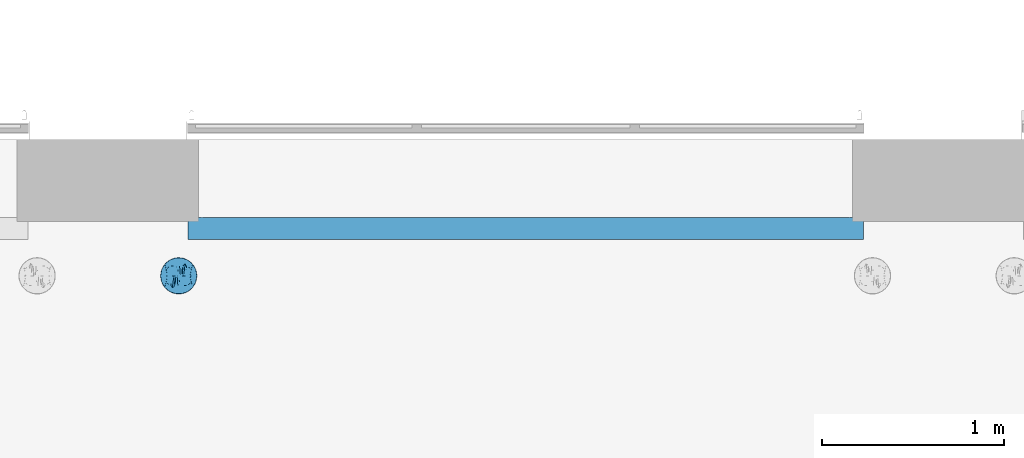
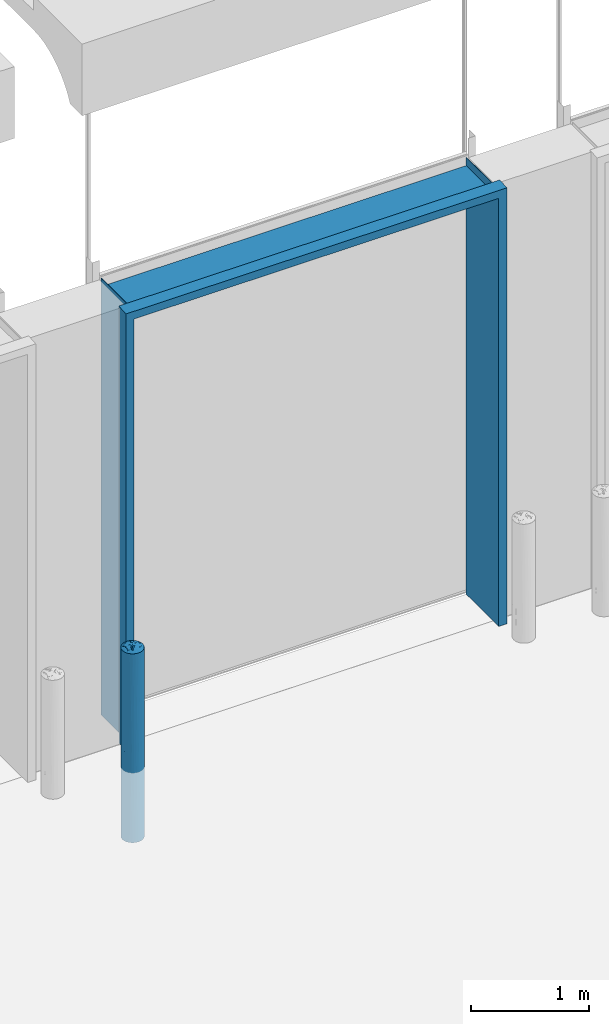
# One storey, part 44 of 77: 2 discrete accessories.
"""IFC2X3 building model written with IfcOpenShell, lengths in millimetres."""

from ifc_helpers import new_model, entity, si_unit, converted_unit, derived_unit, direction, frame, origin, place, context, subcontext, project, spatial, faceted_brep, source, transform, mapped, material, type_object, type_shapes, element, save


model = new_model("IFC2X3")

# Units and contexts
model_context = context("Model", 3, precision=0.01, world=origin(), true_north=direction((6.12303176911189e-17, 1.0)))
body_context = subcontext(model_context, "Body", "Model", "MODEL_VIEW")
ifc_project = project(units=[si_unit("LENGTHUNIT", "METRE", prefix="MILLI"), si_unit("AREAUNIT", "SQUARE_METRE"), si_unit("VOLUMEUNIT", "CUBIC_METRE"), converted_unit("PLANEANGLEUNIT", "DEGREE", entity("IfcRatioMeasure", 0.0174532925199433), si_unit("PLANEANGLEUNIT", "RADIAN"), dimensions=[0, 0, 0, 0, 0, 0, 0]), si_unit("MASSUNIT", "GRAM", prefix="KILO"), derived_unit("MASSDENSITYUNIT", [(si_unit("MASSUNIT", "GRAM", prefix="KILO"), 1), (si_unit("LENGTHUNIT", "METRE"), -3)]), si_unit("TIMEUNIT", "SECOND"), si_unit("FREQUENCYUNIT", "HERTZ"), si_unit("THERMODYNAMICTEMPERATUREUNIT", "DEGREE_CELSIUS"), derived_unit("THERMALTRANSMITTANCEUNIT", [(si_unit("MASSUNIT", "GRAM", prefix="KILO"), 1), (si_unit("THERMODYNAMICTEMPERATUREUNIT", "KELVIN"), -1), (si_unit("TIMEUNIT", "SECOND"), -3)]), derived_unit("VOLUMETRICFLOWRATEUNIT", [(si_unit("LENGTHUNIT", "METRE"), 3), (si_unit("TIMEUNIT", "SECOND"), -1)]), si_unit("ELECTRICCURRENTUNIT", "AMPERE"), si_unit("ELECTRICVOLTAGEUNIT", "VOLT"), si_unit("POWERUNIT", "WATT"), si_unit("FORCEUNIT", "NEWTON", prefix="KILO"), si_unit("ILLUMINANCEUNIT", "LUX"), si_unit("LUMINOUSFLUXUNIT", "LUMEN"), si_unit("LUMINOUSINTENSITYUNIT", "CANDELA"), derived_unit("USERDEFINED", [(si_unit("MASSUNIT", "GRAM", prefix="KILO"), -1), (si_unit("LENGTHUNIT", "METRE"), -2), (si_unit("TIMEUNIT", "SECOND"), 3), (si_unit("LUMINOUSFLUXUNIT", "LUMEN"), 1)]), derived_unit("LINEARVELOCITYUNIT", [(si_unit("LENGTHUNIT", "METRE"), 1), (si_unit("TIMEUNIT", "SECOND"), -1)]), si_unit("PRESSUREUNIT", "PASCAL"), derived_unit("USERDEFINED", [(si_unit("LENGTHUNIT", "METRE"), -2), (si_unit("MASSUNIT", "GRAM", prefix="KILO"), 1), (si_unit("TIMEUNIT", "SECOND"), -2)])], contexts=[model_context])

# Site, building, storey
site_placement = place(None, origin())
site = spatial("IfcSite", under=ifc_project, at=site_placement, Name="Default", CompositionType="ELEMENT")
building_placement = place(site_placement, origin())
building = spatial("IfcBuilding", under=site, at=building_placement, CompositionType="ELEMENT")
storey_placement = place(building_placement, origin())
storey = spatial("IfcBuildingStorey", under=building, at=storey_placement, Name="1. KORRUS", CompositionType="ELEMENT", Elevation=0.0)

# Discrete accessories
ifc_material = material(Name="Default New Material-must-varv")
discrete_accessory_type_1 = type_object("IfcDiscreteAccessoryType", Name="ukse-pollar", material=ifc_material)
shared_shape_1 = source(origin(), body_context, "Body", "Brep", [
    faceted_brep([(83.7498316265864, 0.0, 1211.3118064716), (91.8749158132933, 0.0, 1205.6559032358), (100.0, 0.0, 1200.0), (97.6882221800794, 13.1107435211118, 1200.0), (95.8287421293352, 23.6563789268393, 1200.0), (93.969262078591, 34.2020143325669, 1200.0), (76.9390417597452, 0.0, 1216.05282423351), (63.3022221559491, 75.4406506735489, 1200.0), (62.8416939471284, 39.8030161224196, 1218.4526620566), (69.2436158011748, 37.0764107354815, 1215.9880775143), (-97.6882221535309, 13.110743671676, 1200.0), (-100.0, 0.0, 1200.0), (-91.8749158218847, 0.0, 1205.65590322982), (-83.7498316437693, 0.0, 1211.31180645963), (-76.9390417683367, 0.0, 1216.05282422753), (-93.9692620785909, 34.2020143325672, 1200.0), (-95.8287421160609, 23.6563790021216, 1200.0), (61.6281008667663, 0.0, 1224.0406107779), (76.604444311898, 64.278760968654, 1200.0), (85.2868531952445, 49.2403876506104, 1200.0), (-3.54862814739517, 32.9400963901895, 1234.4920463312), (9.03191194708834, 0.0, 1237.09268012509), (4.40844307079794, 58.3778316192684, 1226.30016518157), (54.6170308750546, 47.6944043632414, 1219.50624940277), (44.627798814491, 0.0, 1230.53414834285), (25.5588463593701, 59.4119136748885, 1223.53680168), (33.6824088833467, 92.5416578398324, 1200.0), (17.3648177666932, 98.4807753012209, 1200.0), (-61.6281008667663, 0.0, 1224.0406107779), (-85.2868531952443, 49.2403876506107, 1200.0), (-70.128251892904, 0.0, 1220.79384199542), (36.1276477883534, 0.0, 1233.78091712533), (43.4209832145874, 50.3665618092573, 1222.6504135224), (70.128251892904, 0.0, 1220.79384199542), (-76.6044443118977, 64.2787609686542, 1200.0), (50.0, 86.6025403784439, 1200.0), (-50.0, 86.6025403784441, 1200.0), (-54.4185160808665, 48.7244133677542, 1219.21017541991), (-43.392270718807, 54.0995868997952, 1221.20165944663), (27.095735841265, 0.0, 1234.88483812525), (35.2622305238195, 66.2009236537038, 1218.09661192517), (-62.8416940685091, 39.8030246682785, 1218.45265938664), (-63.3022221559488, 75.4406506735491, 1200.0), (18.0638238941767, 0.0, 1235.98875912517), (18.4754636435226, 34.2574490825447, 1233.0588958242), (-69.2436179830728, 37.0764202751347, 1215.98807356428), (-53.1279498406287, 0.0, 1227.28737956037), (15.0400910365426, 63.9380091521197, 1223.05106581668), (0.0, 98.4807753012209, 1200.0), (-33.6824088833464, 92.5416578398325, 1200.0), (-31.0939161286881, 53.155099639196, 1224.97270928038), (-21.496736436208, 71.3818883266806, 1218.36002279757), (-27.095735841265, 0.0, 1234.88483812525), (-36.1276477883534, 0.0, 1233.78091712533), (-13.9644320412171, 48.8776365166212, 1229.32055829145), (53.1279498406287, 0.0, 1227.28737956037), (-44.627798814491, 0.0, 1230.53414834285), (-18.0638238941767, 0.0, 1235.98875912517), (-9.03191194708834, 0.0, 1237.09268012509), (-9.80597558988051, 78.5292492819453, 1215.62108797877), (-17.3648177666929, 98.480775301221, 1200.0), (0.0, 0.0, 1238.19660112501), (-97.6882221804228, -13.1107435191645, 1200.0), (-95.8287421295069, -23.6563789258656, 1200.0), (-93.9692620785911, -34.2020143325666, 1200.0), (-63.3022221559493, -75.4406506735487, 1200.0), (-62.8416938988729, -39.8030161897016, 1218.45266205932), (-69.2436157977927, -37.076410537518, 1215.98807757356), (97.6882221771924, -13.110743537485, 1200.0), (93.9692620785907, -34.2020143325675, 1200.0), (95.8287421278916, -23.6563789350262, 1200.0), (-76.6044443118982, -64.2787609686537, 1200.0), (-85.2868531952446, -49.2403876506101, 1200.0), (3.54862829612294, -32.9400954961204, 1234.4920465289), (-4.40844201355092, -58.3778322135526, 1226.30016496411), (-54.6170308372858, -47.6944042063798, 1219.50624947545), (-25.5588462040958, -59.4119134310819, 1223.53680181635), (-33.682408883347, -92.5416578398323, 1200.0), (-17.3648177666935, -98.4807753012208, 1200.0), (-43.4209830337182, -50.3665619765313, 1222.65041351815), (-50.0, -86.6025403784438, 1200.0), (62.8416939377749, -39.803016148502, 1218.45266205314), (54.4185175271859, -48.7244091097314, 1219.21017640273), (63.3022221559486, -75.4406506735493, 1200.0), (85.2868531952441, -49.240387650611, 1200.0), (76.6044443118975, -64.2787609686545, 1200.0), (50.0, -86.6025403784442, 1200.0), (43.3922717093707, -54.0995849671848, 1221.20165990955), (-35.2622303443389, -66.2009242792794, 1218.09661165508), (-18.475463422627, -34.2574489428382, 1233.05889588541), (69.2436157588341, -37.0764105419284, 1215.98807759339), (-15.0400904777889, -63.9380089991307, 1223.05106595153), (0.0, -98.4807753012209, 1200.0), (33.6824088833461, -92.5416578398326, 1200.0), (31.0939160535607, -53.155100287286, 1224.97270904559), (21.4967358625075, -71.3818881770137, 1218.3600229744), (13.9644325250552, -48.8776338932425, 1229.32055915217), (9.80597229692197, -78.5292495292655, 1215.62108807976), (17.3648177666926, -98.480775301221, 1200.0), (0.0, 0.0, 1200.0)], [[[0, 1, 2, 3, 4, 5, 6]], [[7, 8, 9]], [[10, 11, 12, 13, 14, 15, 16]], [[9, 17, 18]], [[17, 19, 18]], [[20, 21, 22]], [[8, 23, 24]], [[25, 26, 27]], [[28, 29, 30]], [[19, 6, 5]], [[31, 23, 32]], [[14, 30, 29]], [[6, 19, 33]], [[29, 28, 34]], [[32, 23, 35]], [[36, 37, 38]], [[39, 32, 40]], [[29, 15, 14]], [[41, 37, 42]], [[43, 44, 21]], [[33, 19, 17]], [[45, 28, 46]], [[42, 37, 36]], [[45, 46, 41]], [[25, 43, 39]], [[47, 22, 44]], [[26, 40, 35]], [[47, 27, 48]], [[49, 50, 51]], [[52, 38, 53]], [[22, 54, 20]], [[39, 31, 32]], [[25, 40, 26]], [[24, 55, 8]], [[35, 23, 7]], [[23, 31, 24]], [[9, 8, 55]], [[23, 8, 7]], [[37, 41, 56]], [[51, 50, 54]], [[38, 52, 50]], [[57, 50, 52]], [[50, 57, 54]], [[38, 49, 36]], [[54, 57, 58]], [[48, 59, 22]], [[38, 37, 53]], [[49, 38, 50]], [[56, 41, 46]], [[56, 53, 37]], [[45, 42, 34]], [[17, 9, 55]], [[7, 9, 18]], [[42, 45, 41]], [[28, 45, 34]], [[47, 44, 25]], [[25, 44, 43]], [[22, 21, 44]], [[25, 27, 47]], [[51, 59, 60]], [[47, 48, 22]], [[39, 40, 25]], [[35, 40, 32]], [[58, 20, 54]], [[20, 58, 61]], [[21, 20, 61]], [[59, 51, 54]], [[49, 51, 60]], [[22, 59, 54]], [[48, 60, 59]], [[13, 12, 11, 62, 63, 64, 14]], [[65, 66, 67]], [[68, 2, 1, 0, 6, 69, 70]], [[67, 28, 71]], [[28, 72, 71]], [[73, 58, 74]], [[66, 75, 56]], [[76, 77, 78]], [[79, 75, 80]], [[53, 75, 79]], [[81, 82, 83]], [[6, 84, 69]], [[84, 17, 85]], [[86, 82, 87]], [[17, 84, 33]], [[52, 79, 88]], [[33, 84, 6]], [[72, 14, 64]], [[57, 89, 58]], [[14, 72, 30]], [[30, 72, 28]], [[90, 17, 55]], [[83, 82, 86]], [[90, 55, 81]], [[76, 57, 52]], [[91, 74, 89]], [[77, 88, 80]], [[91, 78, 92]], [[93, 94, 95]], [[39, 87, 31]], [[74, 96, 73]], [[52, 53, 79]], [[76, 88, 77]], [[56, 46, 66]], [[80, 75, 65]], [[75, 53, 56]], [[67, 66, 46]], [[75, 66, 65]], [[82, 81, 24]], [[95, 94, 96]], [[87, 39, 94]], [[43, 94, 39]], [[94, 43, 96]], [[87, 93, 86]], [[96, 43, 21]], [[92, 97, 74]], [[87, 82, 31]], [[93, 87, 94]], [[24, 81, 55]], [[24, 31, 82]], [[90, 83, 85]], [[28, 67, 46]], [[65, 67, 71]], [[83, 90, 81]], [[17, 90, 85]], [[91, 89, 76]], [[76, 89, 57]], [[74, 58, 89]], [[76, 78, 91]], [[95, 97, 98]], [[91, 92, 74]], [[52, 88, 76]], [[80, 88, 79]], [[21, 73, 96]], [[73, 21, 61]], [[58, 73, 61]], [[97, 95, 96]], [[93, 95, 98]], [[74, 97, 96]], [[92, 98, 97]], [[99, 15, 29]], [[99, 29, 34]], [[99, 34, 42]], [[99, 42, 36]], [[99, 36, 49]], [[99, 49, 60]], [[99, 60, 48]], [[99, 16, 15]], [[99, 10, 16]], [[99, 11, 10]], [[99, 48, 27]], [[99, 27, 26]], [[99, 26, 35]], [[99, 35, 7]], [[99, 7, 18]], [[99, 18, 19]], [[99, 19, 5]], [[99, 5, 4]], [[99, 4, 3]], [[99, 3, 2]], [[99, 2, 68]], [[99, 62, 11]], [[99, 63, 62]], [[99, 64, 63]], [[99, 72, 64]], [[99, 71, 72]], [[99, 65, 71]], [[99, 80, 65]], [[99, 77, 80]], [[99, 78, 77]], [[99, 68, 70]], [[99, 70, 69]], [[99, 69, 84]], [[99, 84, 85]], [[99, 85, 83]], [[99, 83, 86]], [[99, 86, 93]], [[99, 93, 98]], [[99, 98, 92]], [[99, 92, 78]]]),
    faceted_brep([(25.8819045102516, -96.592582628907, 1200.0), (50.0, -86.6025403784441, 1200.0), (70.7106781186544, -70.7106781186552, 1200.0), (86.6025403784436, -50.0, 1200.0), (96.5925826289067, -25.8819045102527, 1200.0), (100.0, 0.0, 1200.0), (96.5925826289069, 25.8819045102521, 1200.0), (86.6025403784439, 50.0, 1200.0), (70.7106781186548, 70.7106781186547, 1200.0), (50.0, 86.6025403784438, 1200.0), (25.8819045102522, 96.5925826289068, 1200.0), (0.0, 100.0, 1200.0), (-25.8819045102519, 96.5925826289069, 1200.0), (-50.0, 86.602540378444, 1200.0), (-70.7106781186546, 70.7106781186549, 1200.0), (-86.6025403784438, 50.0, 1200.0), (-96.5925826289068, 25.8819045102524, 1200.0), (-100.0, 0.0, 1200.0), (-96.5925826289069, -25.8819045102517, 1200.0), (-86.6025403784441, -50.0, 1200.0), (-70.710678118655, -70.7106781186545, 1200.0), (-50.0, -86.6025403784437, 1200.0), (-25.8819045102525, -96.5925826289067, 1200.0), (0.0, -100.0, 1200.0), (0.0, 100.0, -750.0), (25.8819045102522, 96.5925826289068, -750.0), (50.0, 86.6025403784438, -750.0), (70.7106781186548, 70.7106781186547, -750.0), (86.6025403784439, 50.0, -750.0), (96.5925826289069, 25.8819045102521, -750.0), (100.0, 0.0, -750.0), (96.5925826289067, -25.8819045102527, -750.0), (86.6025403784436, -50.0, -750.0), (70.7106781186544, -70.7106781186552, -750.0), (50.0, -86.6025403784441, -750.0), (25.8819045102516, -96.592582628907, -750.0), (0.0, -100.0, -750.0), (-25.8819045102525, -96.5925826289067, -750.0), (-50.0, -86.6025403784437, -750.0), (-70.710678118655, -70.7106781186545, -750.0), (-86.6025403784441, -50.0, -750.0), (-96.5925826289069, -25.8819045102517, -750.0), (-100.0, 0.0, -750.0), (-96.5925826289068, 25.8819045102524, -750.0), (-86.6025403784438, 50.0, -750.0), (-70.7106781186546, 70.7106781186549, -750.0), (-50.0, 86.602540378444, -750.0), (-25.8819045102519, 96.5925826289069, -750.0), (-79.3353340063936, -60.8761429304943, 225.0), (-95.1291375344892, -30.8293235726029, 225.0), (-92.387953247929, -38.2683432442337, -285.980854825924), (-38.2683432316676, -92.3879532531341, -299.59510263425), (-60.8761428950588, -79.3353340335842, -151.214692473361), (55.4391010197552, -83.225633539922, 225.0), (79.335334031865, -60.8761428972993, 225.0), (60.8761429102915, -79.3353340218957, 601.214692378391), (-79.3353340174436, -60.8761429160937, 749.595102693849), (-13.0526192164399, -99.1444861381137, -151.214692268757), (13.0526192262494, -99.1444861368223, -269.40187286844), (4.65337325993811, -99.8916719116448, 225.0), (-19.6480455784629, -98.0507741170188, 225.0), (-38.2683432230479, -92.3879532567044, 749.595102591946), (-38.2683432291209, -92.387953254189, 225.0), (-79.3353340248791, -60.8761429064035, -299.595102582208), (-60.876142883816, -79.3353340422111, 601.214692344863), (79.335334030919, -60.8761428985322, -299.595102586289), (60.8761429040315, -79.3353340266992, -151.214692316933), (-98.5078583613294, -17.2105154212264, -334.254320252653), (-100.0, 0.0, 501.660929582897), (-100.0, 0.0, -51.6552314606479), (-92.3879532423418, -38.2683432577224, 735.980854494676), (-98.507858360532, -17.2105154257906, 784.254320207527), (100.0, 0.0, 501.659108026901), (95.1291375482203, -30.8293235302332, 225.0), (100.0, 0.0, -51.6591080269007), (-55.4391010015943, -83.2256335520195, 225.0), (38.2683432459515, -92.3879532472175, 749.595102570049), (-13.0526192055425, -99.1444861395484, 601.214692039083), (38.2683432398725, -92.3879532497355, -299.595102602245), (92.3879532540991, -38.2683432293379, 735.980854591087), (92.3879532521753, -38.2683432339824, -285.980854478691), (79.335334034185, -60.8761428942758, 749.595102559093), (98.5078583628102, -17.2105154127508, 784.254320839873), (13.0526192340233, -99.1444861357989, 719.401872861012), (98.5078583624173, -17.2105154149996, -334.254320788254), (38.268343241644, -92.3879532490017, 225.0), (98.5078583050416, 17.210515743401, -334.254323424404), (-79.3353340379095, 60.8761428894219, -299.595102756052), (-60.876142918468, 79.3353340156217, -151.214692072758), (79.3353338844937, 60.8761430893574, -299.595101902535), (13.0526191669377, 99.1444861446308, -151.214692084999), (38.2683431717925, 92.3879532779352, -299.595102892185), (19.6480455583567, 98.0507741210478, 225.0), (38.2683431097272, 92.3879533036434, 749.595103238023), (38.2683431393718, 92.3879532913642, 225.0), (-13.0526193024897, 99.1444861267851, 719.401872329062), (66.0410934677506, 75.0904386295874, 225.000002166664), (60.8761427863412, 79.3353341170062, -151.214692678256), (-13.0526192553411, 99.1444861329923, -269.401871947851), (-4.6533732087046, 99.8916719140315, 224.999998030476), (95.1291373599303, 30.829324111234, 225.000013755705), (-92.3879532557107, 38.2683432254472, -285.980854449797), (-98.5078583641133, 17.210515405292, -334.254320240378), (-95.1291375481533, 30.8293235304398, 225.0), (79.3353338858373, 60.8761430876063, 749.595105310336), (92.3879530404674, 38.2683437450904, -285.980851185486), (79.3353338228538, 60.876143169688, 225.000002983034), (-38.2683432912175, 92.3879532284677, 749.595102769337), (92.38795316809, 38.2683434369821, 735.980862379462), (60.8761427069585, 79.3353341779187, 601.214694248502), (13.0526190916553, 99.144486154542, 601.214690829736), (-55.4391010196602, 83.2256335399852, 225.0), (-79.3353340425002, 60.8761428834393, 225.0), (-60.8761429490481, 79.3353339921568, 601.214692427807), (-38.2683432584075, 92.387953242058, -299.595102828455), (-92.3879532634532, 38.268343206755, 735.980854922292), (-79.3353340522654, 60.8761428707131, 749.59510268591), (-98.5078583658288, 17.2105153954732, 784.254320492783), (98.5078583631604, 17.2105154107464, 784.25432452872), (-38.2683432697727, 92.3879532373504, 225.0)], [[[0, 1, 2, 3, 4, 5, 6, 7, 8, 9, 10, 11, 12, 13, 14, 15, 16, 17, 18, 19, 20, 21, 22, 23]], [[24, 25, 26, 27, 28, 29, 30, 31, 32, 33, 34, 35, 36, 37, 38, 39, 40, 41, 42, 43, 44, 45, 46, 47]], [[48, 49, 50]], [[51, 52, 38]], [[53, 54, 55]], [[56, 20, 19]], [[38, 37, 51]], [[57, 58, 59]], [[51, 60, 61, 62]], [[63, 52, 48]], [[64, 56, 48]], [[65, 66, 33]], [[57, 60, 51]], [[41, 40, 50]], [[41, 67, 42]], [[68, 69, 49]], [[40, 39, 63]], [[66, 34, 33]], [[49, 70, 71]], [[72, 73, 74]], [[57, 37, 36]], [[75, 61, 64]], [[1, 0, 76]], [[20, 64, 21]], [[22, 21, 61]], [[61, 77, 22]], [[75, 51, 62, 61]], [[35, 34, 78]], [[58, 36, 35]], [[75, 48, 52]], [[33, 32, 65]], [[54, 73, 79]], [[65, 80, 54]], [[79, 81, 54]], [[79, 82, 4]], [[50, 67, 41]], [[56, 64, 20]], [[4, 82, 5]], [[23, 22, 77]], [[77, 83, 23]], [[31, 80, 32]], [[39, 38, 52]], [[17, 68, 71]], [[42, 67, 69]], [[54, 81, 55]], [[66, 65, 54]], [[30, 74, 84]], [[5, 82, 72]], [[66, 53, 78]], [[55, 2, 1]], [[80, 84, 73]], [[70, 19, 18]], [[3, 2, 81]], [[56, 70, 48]], [[50, 63, 48]], [[36, 58, 57]], [[0, 23, 83]], [[79, 4, 3]], [[76, 55, 1]], [[53, 76, 85, 78]], [[78, 58, 35]], [[85, 83, 59]], [[77, 60, 59]], [[76, 83, 85]], [[58, 78, 85]], [[50, 40, 63]], [[67, 49, 69]], [[71, 70, 18]], [[48, 70, 49]], [[79, 3, 81]], [[82, 73, 72]], [[84, 80, 31]], [[54, 80, 73]], [[57, 51, 37]], [[64, 61, 21]], [[66, 78, 34]], [[83, 76, 0]], [[70, 56, 19]], [[52, 63, 39]], [[80, 65, 32]], [[55, 81, 2]], [[85, 59, 58]], [[83, 77, 59]], [[49, 67, 50]], [[17, 71, 18]], [[49, 71, 68]], [[73, 82, 79]], [[30, 84, 31]], [[73, 84, 74]], [[59, 60, 57]], [[61, 60, 77]], [[48, 75, 64]], [[51, 75, 52]], [[54, 53, 66]], [[76, 53, 55]], [[86, 30, 29]], [[87, 88, 45]], [[28, 27, 89]], [[90, 25, 24]], [[26, 25, 91]], [[91, 92, 93, 94]], [[12, 11, 95]], [[96, 89, 97]], [[90, 98, 99]], [[91, 90, 92]], [[74, 100, 72]], [[101, 102, 103]], [[88, 46, 45]], [[97, 27, 26]], [[8, 7, 104]], [[100, 105, 106]], [[13, 12, 107]], [[7, 6, 108]], [[109, 94, 93]], [[97, 91, 94]], [[10, 9, 93]], [[109, 9, 8]], [[28, 105, 29]], [[93, 110, 10]], [[111, 112, 113]], [[47, 46, 114]], [[96, 104, 106, 89]], [[104, 109, 8]], [[45, 44, 87]], [[112, 103, 115]], [[91, 97, 26]], [[87, 101, 112]], [[115, 116, 112]], [[105, 86, 29]], [[96, 94, 109]], [[16, 117, 17]], [[11, 10, 110]], [[110, 95, 11]], [[15, 14, 116]], [[115, 16, 15]], [[5, 72, 118]], [[112, 116, 113]], [[88, 87, 112]], [[104, 108, 106]], [[88, 111, 114]], [[113, 14, 13]], [[42, 69, 102]], [[17, 117, 68]], [[43, 101, 44]], [[108, 118, 100]], [[115, 117, 16]], [[24, 98, 90]], [[98, 24, 47]], [[68, 103, 69]], [[107, 113, 13]], [[111, 107, 119, 114]], [[114, 98, 47]], [[119, 95, 99]], [[110, 92, 99]], [[107, 95, 119]], [[98, 114, 119]], [[105, 28, 89]], [[86, 100, 74]], [[118, 108, 6]], [[106, 108, 100]], [[115, 15, 116]], [[117, 103, 68]], [[102, 101, 43]], [[112, 101, 103]], [[97, 89, 27]], [[105, 89, 106]], [[108, 104, 7]], [[90, 91, 25]], [[109, 93, 9]], [[88, 114, 46]], [[95, 107, 12]], [[101, 87, 44]], [[113, 116, 14]], [[119, 99, 98]], [[95, 110, 99]], [[100, 86, 105]], [[30, 86, 74]], [[5, 118, 6]], [[100, 118, 72]], [[103, 117, 115]], [[42, 102, 43]], [[103, 102, 69]], [[94, 96, 97]], [[104, 96, 109]], [[99, 92, 90]], [[93, 92, 110]], [[112, 111, 88]], [[107, 111, 113]]]),
])
type_shapes(discrete_accessory_type_1, [shared_shape_1])
discrete_accessory_1_placement = place(storey_placement, frame((20490.0321663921, -750.0, 0.0)))
element("IfcDiscreteAccessory", 1, at=discrete_accessory_1_placement, inside=storey, type_object=discrete_accessory_type_1, material=ifc_material, Name="ukse-pollar:ukse-pollar", ObjectType="ukse-pollar", context=body_context, shape_type="MappedRepresentation", body=[
    mapped(shared_shape_1, transform((0.0, 0.0, 0.0), scale=1.0)),
])
discrete_accessory_type_2 = type_object("IfcDiscreteAccessoryType", Name="akna-ylaplekid3600", material=ifc_material)
shared_shape_2 = source(origin(), body_context, "Body", "Brep", [
    faceted_brep([(-1780.0, 280.0, -440.0), (-1780.0, -270.0, -440.0), (-1784.0, -270.0, -440.0), (-1784.0, 276.0, -440.0), (-1856.0, 276.0, -440.0), (-1856.0, 160.0, -440.0), (-1860.0, 160.0, -440.0), (-1860.0, 280.0, -440.0), (-1780.0, -270.0, 4070.0), (-1780.0, -270.0, 3984.0), (-1780.0, 276.0, 3984.0), (-1780.0, 276.0, 4056.31946847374), (-1780.0, 160.0, 4065.9861351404), (-1780.0, 160.0, 4070.0), (-1784.0, -270.0, 4070.0), (-1780.0, -270.0, 3980.0), (1780.0, -270.0, 3980.0), (1780.0, -270.0, -440.0), (1784.0, -270.0, -440.0), (1784.0, -270.0, 4070.0), (1780.0, -270.0, 4070.0), (1780.0, -270.0, 3984.0), (-1784.0, 160.0, 4070.0), (-1784.0, 160.0, 4065.9861351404), (-1784.0, 276.0, 4056.31946847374), (-1856.0, 276.0, 4056.31946847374), (-1856.0, 160.0, 4065.9861351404), (-1860.0, 160.0, 4070.0), (-1860.0, 280.0, 4060.0), (1860.0, 280.0, 4060.0), (1860.0, 280.0, -440.0), (1780.0, 280.0, -440.0), (1780.0, 280.0, 3980.0), (-1780.0, 280.0, 3980.0), (1780.0, 160.0, 4070.0), (1784.0, 160.0, 4070.0), (1860.0, 160.0, 4070.0), (1780.0, 276.0, 3984.0), (1780.0, 276.0, 4056.31946847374), (1860.0, 160.0, -440.0), (1856.0, 160.0, -440.0), (1856.0, 276.0, -440.0), (1784.0, 276.0, -440.0), (1780.0, 160.0, 4065.9861351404), (1784.0, 276.0, 4056.31946847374), (1784.0, 160.0, 4065.9861351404), (1856.0, 276.0, 4056.31946847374), (1856.0, 160.0, 4065.9861351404)], [[[0, 1, 2, 3, 4, 5, 6, 7]], [[8, 9, 10, 11, 12, 13]], [[14, 2, 1, 15, 16, 17, 18, 19, 20, 21, 9, 8]], [[2, 14, 22, 23, 24, 3]], [[3, 24, 25, 4]], [[4, 25, 26, 5]], [[6, 27, 28, 7]], [[7, 28, 29, 30, 31, 32, 33, 0]], [[13, 34, 35, 36, 29, 28, 27, 22]], [[37, 38, 11, 10]], [[10, 9, 21, 37]], [[32, 16, 15, 33]], [[31, 30, 39, 40, 41, 42, 18, 17]], [[34, 43, 38, 37, 21, 20]], [[42, 44, 45, 35, 19, 18]], [[41, 46, 44, 42]], [[40, 47, 46, 41]], [[30, 29, 36, 39]], [[26, 25, 24, 23]], [[8, 13, 22, 14]], [[39, 36, 35, 45, 47, 40]], [[19, 35, 34, 20]], [[13, 12, 43, 34]], [[5, 26, 23, 22, 27, 6]], [[12, 11, 38, 43]], [[45, 44, 46, 47]], [[17, 16, 32, 31]], [[0, 33, 15, 1]]]),
])
type_shapes(discrete_accessory_type_2, [shared_shape_2])
discrete_accessory_2_placement = place(storey_placement, frame((22400.0241844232, -270.0, 440.0), z_axis=(0.0, 0.0, 1.0), x_axis=(-1.0, 0.0, 0.0)))
element("IfcDiscreteAccessory", 2, at=discrete_accessory_2_placement, inside=storey, type_object=discrete_accessory_type_2, material=ifc_material, Name="akna-ylaplekid_5400-A:akna-ylaplekid3600", ObjectType="akna-ylaplekid3600", context=body_context, shape_type="MappedRepresentation", body=[
    mapped(shared_shape_2, transform((0.0, 0.0, 0.0), scale=1.0)),
])

save(model, "model.ifc")
